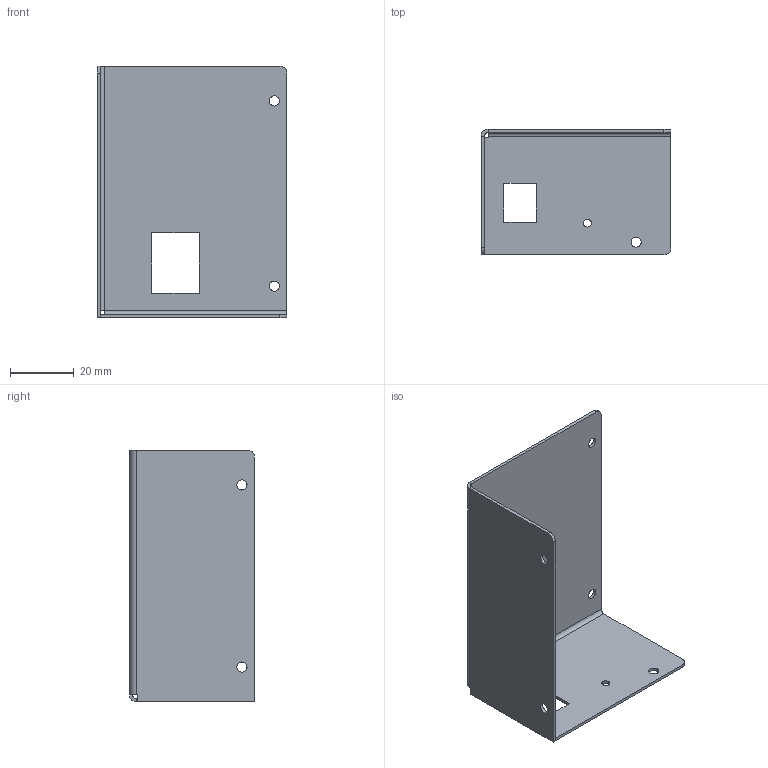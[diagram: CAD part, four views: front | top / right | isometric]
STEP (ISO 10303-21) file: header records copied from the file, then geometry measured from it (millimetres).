
FILE_DESCRIPTION(/* description */ (''),/* implementation_level */ '2;1');
FILE_NAME(/* name */ 'top.step',/* time_stamp */ '2022-12-09T17:27:13-08:00',/* author */ (''),/* organization */ (''),/* preprocessor_version */ 'ST-DEVELOPER v19.2',/* originating_system */ 'Autodesk Translation Framework v11.17.0.187',/* authorisation */ '');
FILE_SCHEMA (('AUTOMOTIVE_DESIGN { 1 0 10303 214 3 1 1 }'));
Length unit declared in the file: millimetre
Products named in the file (1): top
Bounding box: 59.7 x 39.33 x 79.17 mm (x, y, z)
Volume: 9071.8 mm3; surface area: 19479.6 mm2
Topology: 1 solids, 1 shells, 45 faces, 113 edges, 70 vertices
Faces by surface type: plane 32, cylinder 13
Full cylindrical faces by diameter (mm): 2.5 x1, 3.2 x5
Entity records: 1397 total; most frequent: DIRECTION 231, CARTESIAN_POINT 229, ORIENTED_EDGE 226, EDGE_CURVE 113, LINE 87, VECTOR 87, AXIS2_PLACEMENT_3D 72, VERTEX_POINT 70
